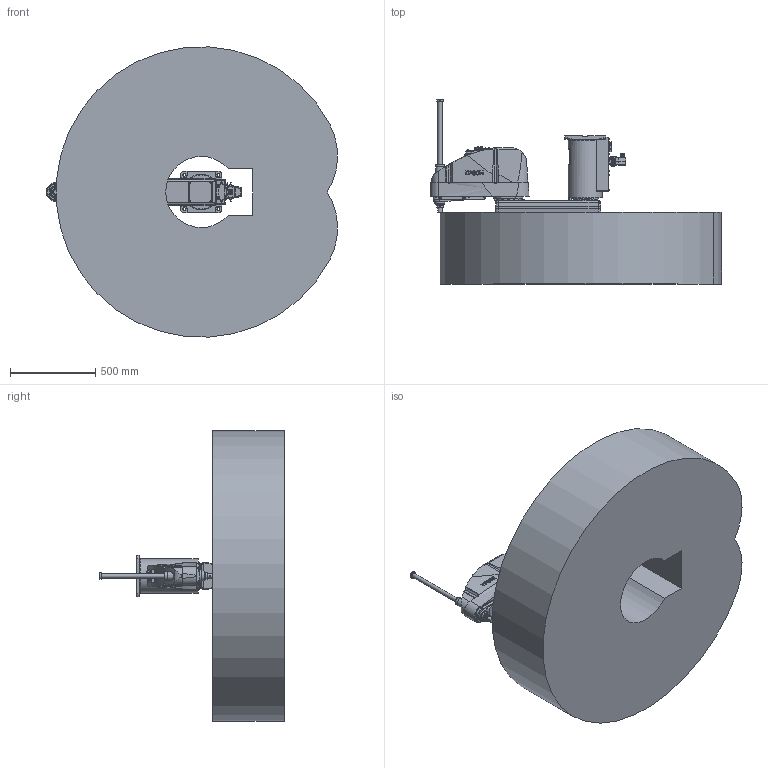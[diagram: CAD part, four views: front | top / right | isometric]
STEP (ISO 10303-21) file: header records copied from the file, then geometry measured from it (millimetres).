
FILE_DESCRIPTION( ( 'STEP AP214' ), '1' );
FILE_NAME( 'C:/Users/9607552/Desktop/GX20-B854SR_langle.stp', '2023-08-01T09:31:27', ( '' ), ( '' ), ' ', 'PARTsolutions', ' ' );
FILE_SCHEMA( ( 'AUTOMOTIVE_DESIGN { 1 0 10303 214 1 1 1 1 }' ) );
Length unit declared in the file: millimetre
Products named in the file (7): GX20-B854SRA-W; _Base sr; _Angle-B; _J1 Arm GX10-450 r/w; _J2 Arm GX10-s; _J3 Arm GX10-s (4); _GX10_20B-34_4
Assembly tree (6 placements, depth 2):
  GX20-B854SRA-W
    _Base sr
    _Angle-B
    _J1 Arm GX10-450 r/w
    _J2 Arm GX10-s
    _J3 Arm GX10-s (4)
    _GX10_20B-34_4
Bounding box: 1702.55 x 1080 x 1697.41 mm (x, y, z)
Volume: 912370434.8 mm3; surface area: 8480799.1 mm2
Topology: 6 solids, 6 shells, 2474 faces, 6050 edges, 3955 vertices
Faces by surface type: plane 1316, cylinder 761, cone 302, torus 62, bspline 32, sphere 1
Full cylindrical faces by diameter (mm): 1 x24, 1.18 x55, 3 x32, 3.242 x10, 3.3 x4, 4.2 x4, 4.8 x4, 5.1 x4, 5.25 x2, 5.34 x8, 5.4 x5, 5.5 x16, 6 x1, 6.2 x4, 6.647 x2, 7 x31, 8 x9, 8.5 x2, 9 x4, 10 x32, 11 x14, 12 x6, 12.25 x1, 13 x2, 14 x8, 14.25 x1, 16 x6, 18 x2, 20.4 x1, 21.7 x2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
Entity records: 93758 total; most frequent: CARTESIAN_POINT 17818, DIRECTION 11580, ORIENTED_EDGE 10774, EDGE_CURVE 5387, AXIS2_PLACEMENT_3D 4402, VERTEX_POINT 3869, EDGE_LOOP 3444, FACE_OUTER_BOUND 2846
